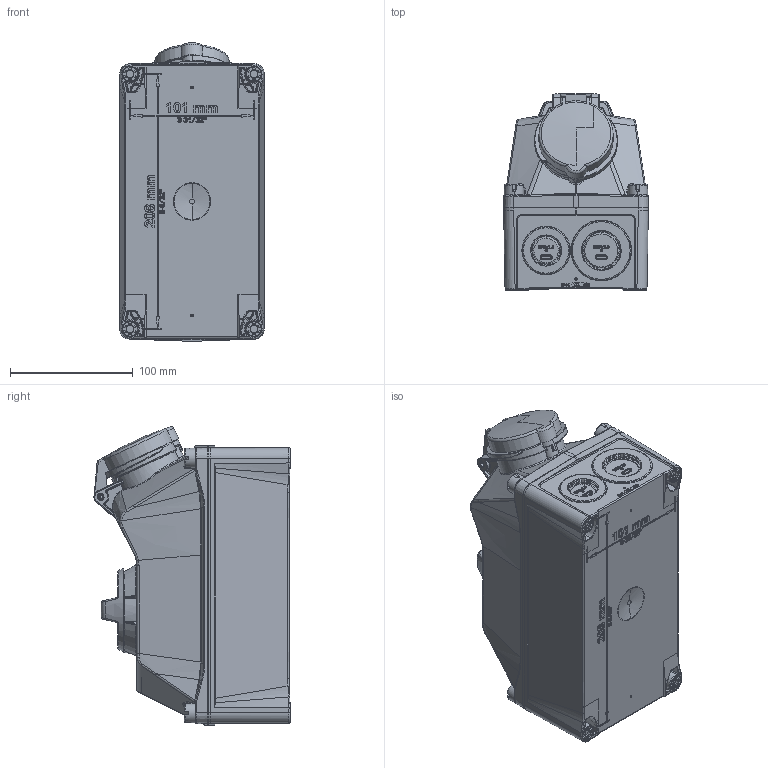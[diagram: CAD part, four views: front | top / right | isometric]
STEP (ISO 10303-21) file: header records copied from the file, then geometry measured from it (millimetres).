
FILE_DESCRIPTION((''),'2;1');
FILE_NAME('1132022_SW0001','2022-08-17T09:03:37',('funke002'),('MENNEKES'),'CREO PARAMETRIC BY PTC INC, 2019080','CREO PARAMETRIC BY PTC INC, 2019080','');
FILE_SCHEMA(('AUTOMOTIVE_DESIGN { 1 0 10303 214 1 1 1 1 }'));
Products named in the file (1): 1132022_SW0001
Bounding box: 118 x 159.89 x 243.53 mm (x, y, z)
Volume: 3066945.8 mm3; surface area: 164871.1 mm2
Topology: 1 solids, 1 shells, 3905 faces, 9762 edges, 5985 vertices
Faces by surface type: plane 1120, bspline 1029, cylinder 659, extrusion 626, torus 221, sphere 132, cone 118
Entity records: 193249 total; most frequent: CARTESIAN_POINT 78957, ORIENTED_EDGE 19500, DIRECTION 13332, EDGE_CURVE 9750, VERTEX_POINT 5986, VECTOR 4520, PRESENTATION_STYLE_ASSIGNMENT 4438, STYLED_ITEM 4438
